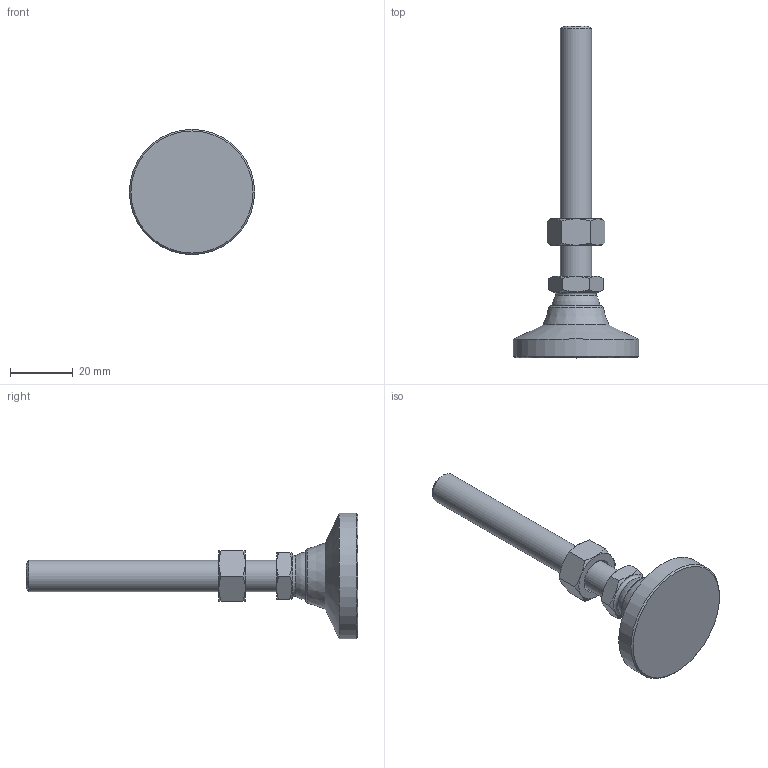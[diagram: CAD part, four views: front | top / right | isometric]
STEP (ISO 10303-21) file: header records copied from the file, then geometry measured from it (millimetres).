
FILE_DESCRIPTION( ( 'STEP AP214' ), ' ' );
FILE_NAME( 'O:/ganter_2015/teil_2/2_5/gn343_2/gn343_2_os/Levelling foot with threaded stud GN 343.2-40-M10-80-OS-(0).stp', '2015-10-26T09:07:21', ( '' ), ( '' ), ' ', 'PARTsolutions', ' ' );
FILE_SCHEMA( ( 'AUTOMOTIVE_DESIGN { 1 0 10303 214 1 1 1 1 }' ) );
Length unit declared in the file: millimetre
Products named in the file (4): Levelling foot with threaded stud GN 343.2-40-M10-80-OS-(0); _Levelling foot with threaded stud GN 343.2-40-M10-80-OS-(0)_foot; _Levelling foot with threaded stud GN 343.2-40-M10-80-OS-(0)_screw; _Stainless Steel-Levelling feet GN 343.2-40-M10-80-OS-(0)_nut
Assembly tree (3 placements, depth 2):
  Levelling foot with threaded stud GN 343.2-40-M10-80-OS-(0)
    _Levelling foot with threaded stud GN 343.2-40-M10-80-OS-(0)_foot
    _Levelling foot with threaded stud GN 343.2-40-M10-80-OS-(0)_screw
    _Stainless Steel-Levelling feet GN 343.2-40-M10-80-OS-(0)_nut
Bounding box: 40 x 106 x 40 mm (x, y, z)
Volume: 21944.7 mm3; surface area: 8385.8 mm2
Topology: 3 solids, 3 shells, 50 faces, 107 edges, 63 vertices
Faces by surface type: cone 25, plane 18, cylinder 3, torus 2, sphere 2
Full cylindrical faces by diameter (mm): 8.376 x1, 10 x1, 40 x1
Entity records: 1874 total; most frequent: CARTESIAN_POINT 468, DIRECTION 188, ORIENTED_EDGE 176, AXIS2_PLACEMENT_3D 88, EDGE_CURVE 88, EDGE_LOOP 66, VERTEX_POINT 60, FACE_OUTER_BOUND 55
